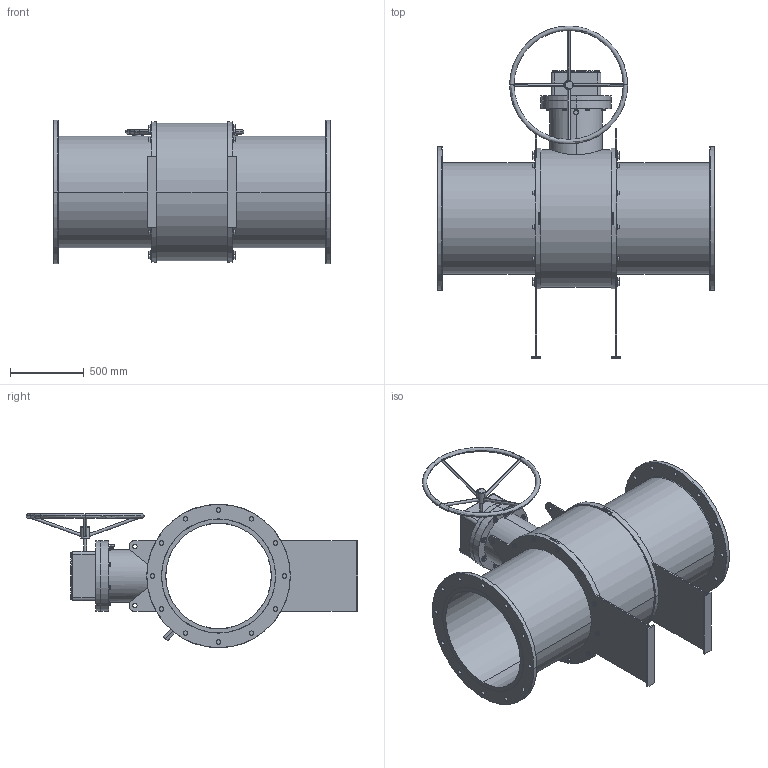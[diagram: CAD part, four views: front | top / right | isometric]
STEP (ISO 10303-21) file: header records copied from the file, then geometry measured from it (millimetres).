
FILE_DESCRIPTION (( 'STEP AP203' ), '1' );
FILE_NAME ('GB2_ANSI_900_30IN_HD.STEP', '2025-10-09T15:17:41', ( '' ), ( '' ), 'SwSTEP 2.0', 'SolidWorks 2025', '' );
FILE_SCHEMA (( 'CONFIG_CONTROL_DESIGN' ));
Length unit declared in the file: millimetre
Products named in the file (3): GB2_ANSI_900_30IN_HD; hex flange screw_am_B18.2.3.4M - Hex flange screw, M16 x 2.0 x 25 --25N; GB2_ANSI_2500_1500_ANSI_900_30IN
Assembly tree (37 placements, depth 2):
  GB2_ANSI_900_30IN_HD
    GB2_ANSI_2500_1500_ANSI_900_30IN
    hex flange screw_am_B18.2.3.4M - Hex flange screw, M16 x 2.0 x 25 --25N  x36
Bounding box: 1880 x 2250 x 974.4 mm (x, y, z)
Volume: 313213744.4 mm3; surface area: 14034420.3 mm2
Topology: 38 solids, 38 shells, 1607 faces, 3640 edges, 2196 vertices
Faces by surface type: plane 530, cone 392, cylinder 297, bspline 286, torus 96, sphere 6
Entity records: 27446 total; most frequent: CARTESIAN_POINT 12051, ORIENTED_EDGE 2932, DIRECTION 2908, EDGE_CURVE 1466, AXIS2_PLACEMENT_3D 1112, VERTEX_POINT 934, EDGE_LOOP 736, VECTOR 684
